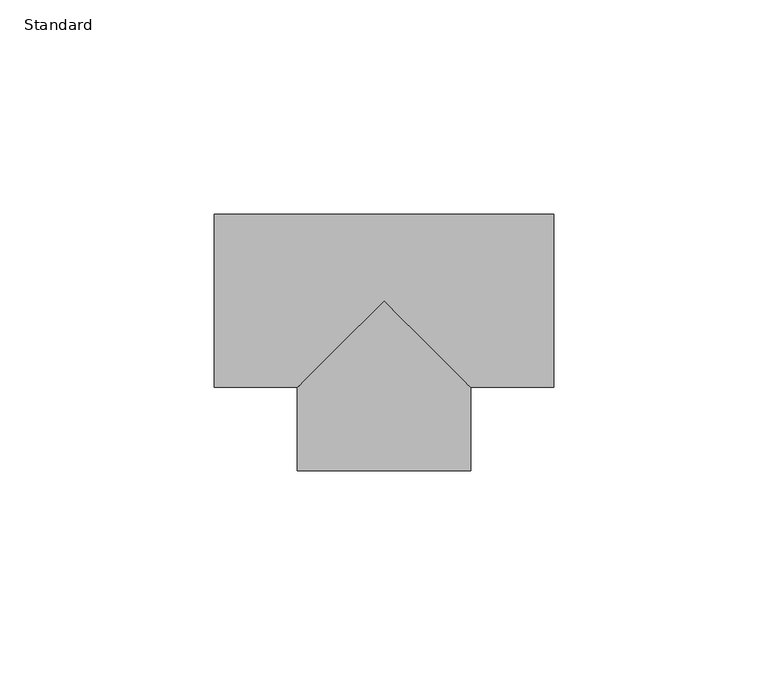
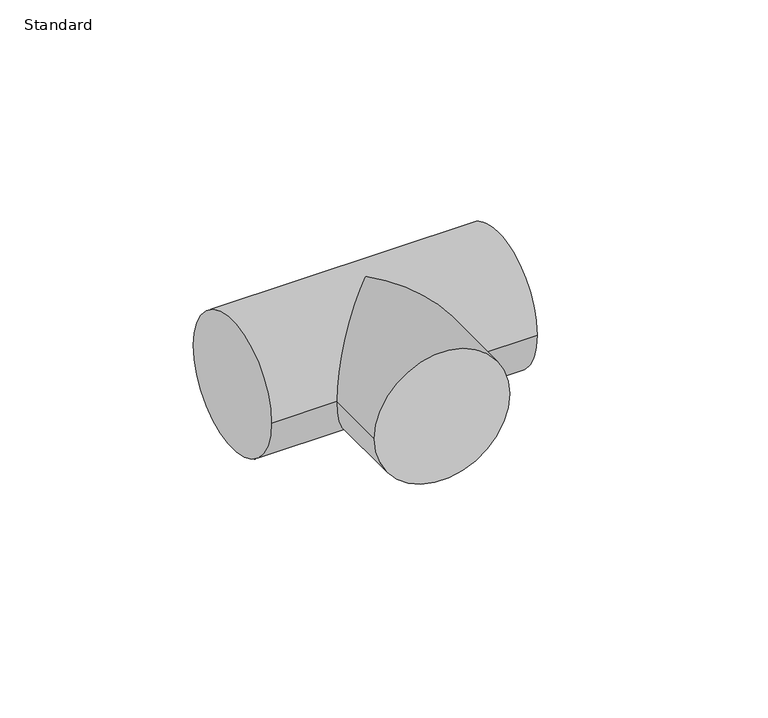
"""IFC4 building model written with IfcOpenShell, lengths in millimetres: pipe fitting geometry, M_Tee - CPVC - Sch 40 : Standard."""

from ifc_helpers import new_model, si_unit, frame, origin, place, context, project, spatial, circle_curve, ellipse_curve, source, transform, mapped, element, save
from ifc_brep_helpers import plane_surface, cylinder_surface, advanced_brep


def standard_72b35c3b(model_context):
    return source(origin(), model_context, "Body", "AdvancedBrep", [
        advanced_brep(
        [(-39.7002, -20.2438, 0.0), (-39.7002, 20.2438, 0.0), (39.7002, -20.2438, 0.0), (39.7002, 20.2438, 0.0), (-20.2438, -20.2438, 0.0), (0.0, 0.0, 20.2438), (20.2438, -20.2438, 0.0), (0.0, 0.0, -20.2438), (-20.2438, -39.7002, 0.0), (20.2438, -39.7002, 0.0)],
        [
            (0, 1, circle_curve(frame((-39.7002, 0.0, 0.0), z_axis=(-1.0, 0.0, 0.0), x_axis=(0.0, 1.0, 0.0)), 20.2438)),
            (1, 0, circle_curve(frame((-39.7002, 0.0, 0.0), z_axis=(-1.0, 0.0, 0.0), x_axis=(0.0, 1.0, 0.0)), 20.2438)),
            (2, 3, circle_curve(frame((39.7002, 0.0, 0.0), z_axis=(1.0, 0.0, 0.0), x_axis=(0.0, 1.0, 0.0)), 20.2438)),
            (3, 2, circle_curve(frame((39.7002, 0.0, 0.0), z_axis=(1.0, 0.0, 0.0), x_axis=(0.0, 1.0, 0.0)), 20.2438)),
            (0, 4),
            (4, 5, ellipse_curve(frame((0.0, 0.0, 0.0), z_axis=(-0.7071067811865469, 0.7071067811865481, 0.0), x_axis=(-0.707106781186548, -0.7071067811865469, 0.0)), 28.6290565, 20.2438)),
            (5, 6, ellipse_curve(frame((0.0, 0.0, 0.0), z_axis=(0.707106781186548, 0.7071067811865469, 0.0), x_axis=(-0.707106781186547, 0.707106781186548, 0.0)), 28.6290565, 20.2438)),
            (6, 2),
            (3, 1),
            (6, 7, ellipse_curve(frame((0.0, 0.0, 0.0), z_axis=(0.707106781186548, 0.7071067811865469, 0.0), x_axis=(-0.707106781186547, 0.707106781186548, 0.0)), 28.6290565, 20.2438)),
            (7, 4, ellipse_curve(frame((0.0, 0.0, 0.0), z_axis=(-0.7071067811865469, 0.7071067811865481, 0.0), x_axis=(-0.707106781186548, -0.7071067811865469, 0.0)), 28.6290565, 20.2438)),
            (8, 9, circle_curve(frame((0.0, -39.7002, 0.0), z_axis=(0.0, -1.0, 0.0), x_axis=(1.0, 0.0, 0.0)), 20.2438)),
            (9, 8, circle_curve(frame((0.0, -39.7002, 0.0), z_axis=(0.0, -1.0, 0.0), x_axis=(1.0, 0.0, 0.0)), 20.2438)),
            (9, 6),
            (4, 8),
        ],
        [
            plane_surface(frame((-39.7002, 0.0, 0.0), z_axis=(-1.0, 0.0, 0.0), x_axis=(0.0, 0.0, 1.0))),
            plane_surface(frame((39.7002, 0.0, 0.0), z_axis=(1.0, 0.0, 0.0), x_axis=(0.0, 0.0, 1.0))),
            cylinder_surface(frame((-39.7002, 0.0, 0.0), z_axis=(-1.0, 0.0, 0.0), x_axis=(0.0, 1.0, 0.0)), 20.2438),
            plane_surface(frame((0.0, -39.7002, 0.0), z_axis=(0.0, -1.0, 0.0), x_axis=(0.0, 0.0, 1.0))),
            cylinder_surface(frame((0.0, 0.0, 0.0), z_axis=(0.0, 1.0, 0.0), x_axis=(1.0, 0.0, 0.0)), 20.2438),
        ],
        [
            (0, [[1, 2]]),
            (1, [[3, 4]]),
            (2, [[-1, 5, 6, 7, 8, -4, 9]]),
            (2, [[-2, -9, -3, -8, 10, 11, -5]]),
            (3, [[12, 13]]),
            (4, [[-13, 14, -7, -6, 15]]),
            (4, [[-12, -15, -11, -10, -14]]),
        ],
    ),
    ])


if __name__ == "__main__":
    model = new_model("IFC4")
    model_context = context("Model", 3, world=origin())
    ifc_project = project(units=[si_unit("LENGTHUNIT", "METRE", prefix="MILLI")], contexts=[model_context])
    site = spatial("IfcSite", under=ifc_project)
    building = spatial("IfcBuilding", under=site)
    placement = place(None, origin())
    standard_shape = standard_72b35c3b(model_context)
    element("IfcPipeFitting", 1, ObjectType="M_Tee - CPVC - Sch 40 : Standard", at=placement, inside=building, context=model_context, shape_type="MappedRepresentation", body=[
        mapped(standard_shape, transform((0.0, 0.0, 0.0), x_axis=(1.0, 0.0, 0.0), y_axis=(0.0, 1.0, 0.0), z_axis=(0.0, 0.0, 1.0))),
    ])
    save(model, "model.ifc")
